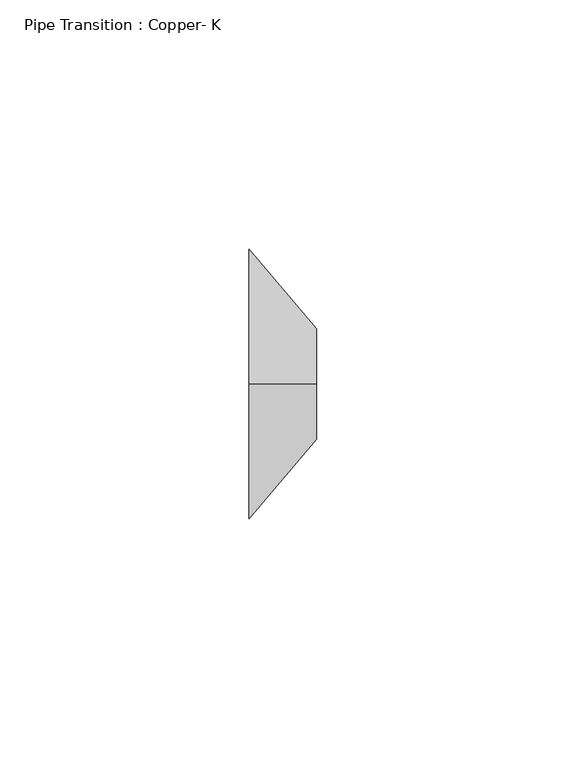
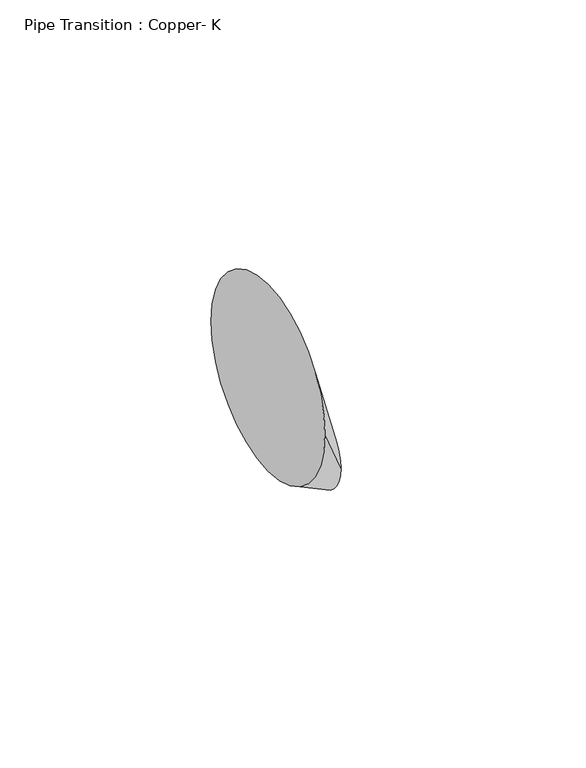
"""IFC4 building model written with IfcOpenShell, lengths in millimetres: pipe fitting geometry, Pipe Transition : Copper- K."""

import ifcopenshell
import ifcopenshell.guid

model = None  # the IFC model being written
_history = None  # IfcOwnerHistory: only IFC2X3 demands one
_inside = {}  # id of a spatial element -> (the spatial element, [elements in it])
_under = {}  # id of a project, library or spatial element -> (it, [spatial elements below it])
_declared = {}  # id of a project -> (the project, [libraries it declares])
_typed = {}  # id of a type object -> (the type object, [elements of that type])
_made_of = {}  # id of a material, layer set ... -> (it, [elements and type objects made of it])


def new_model(schema):
    """Start an empty IFC model of exactly this schema.

    Asked for "IFC4X3", IfcOpenShell would pick the latest addendum, in which some entities
    have other attributes; the version numbers below select the first issue.
    IFC2X3 requires an IfcOwnerHistory on every rooted entity: one is made here for all.
    """
    global model, _history
    if schema == "IFC4X3":
        model = ifcopenshell.file(schema_version=(4, 3, 0, 0))
    else:
        model = ifcopenshell.file(schema=schema)
    _inside.clear()
    _under.clear()
    _declared.clear()
    _typed.clear()
    _made_of.clear()
    _history = None
    if model.schema == "IFC2X3":
        org = make("IfcOrganization", Name="unknown")
        user = make(
            "IfcPersonAndOrganization",
            ThePerson=make("IfcPerson", FamilyName="unknown"),
            TheOrganization=org,
        )
        app = make(
            "IfcApplication",
            ApplicationDeveloper=org,
            Version="unknown",
            ApplicationFullName="unknown",
            ApplicationIdentifier="unknown",
        )
        _history = make(
            "IfcOwnerHistory",
            OwningUser=user,
            OwningApplication=app,
            ChangeAction="ADDED",
            CreationDate=0,
        )
    return model


def make(cls, **values):
    """One entity of the class cls with the attributes given. An attribute that is None is left unset."""
    return model.create_entity(
        cls, **{name: value for name, value in values.items() if value is not None}
    )


def rooted(cls, **values):
    """An entity with a GlobalId (a new one), such as an element, a storey or a relation."""
    return make(cls, GlobalId=ifcopenshell.guid.new(), OwnerHistory=_history, **values)


def si_unit(unit_type, name, prefix=None):
    """IfcSIUnit, for example si_unit("LENGTHUNIT", "METRE", prefix="MILLI")."""
    return make("IfcSIUnit", UnitType=unit_type, Prefix=prefix, Name=name)


def assignment(units):
    """IfcUnitAssignment: the units of a project."""
    return None if units is None else make("IfcUnitAssignment", Units=units)


def point(xyz):
    """IfcCartesianPoint."""
    return None if xyz is None else make("IfcCartesianPoint", Coordinates=xyz)


def direction(xyz):
    """IfcDirection."""
    return None if xyz is None else make("IfcDirection", DirectionRatios=xyz)


def frame(location, z_axis=None, x_axis=None):
    """IfcAxis2Placement3D, a coordinate frame: its origin and axes. An axis left out is left unset."""
    return make(
        "IfcAxis2Placement3D",
        Location=point(location),
        Axis=direction(z_axis),
        RefDirection=direction(x_axis),
    )


def origin():
    """The frame at (0, 0, 0) with its axes left unset."""
    return frame((0.0, 0.0, 0.0))


def place(relative_to, where):
    """IfcLocalPlacement: puts the frame where relative to a parent placement (None: the world)."""
    return make(
        "IfcLocalPlacement", PlacementRelTo=relative_to, RelativePlacement=where
    )


def context(
    kind, dimensions, precision=None, world=None, true_north=None, identifier=None
):
    """IfcGeometricRepresentationContext, for example the 3D "Model" context."""
    return make(
        "IfcGeometricRepresentationContext",
        ContextIdentifier=identifier,
        ContextType=kind,
        CoordinateSpaceDimension=dimensions,
        Precision=precision,
        WorldCoordinateSystem=world,
        TrueNorth=true_north,
    )


def project(units=None, contexts=None):
    """IfcProject with its units and contexts."""
    return rooted(
        "IfcProject",
        Name="project",
        RepresentationContexts=contexts,
        UnitsInContext=assignment(units),
    )


def spatial(cls, under=None, at=None, **own):
    """A site, building, storey or space (cls), placed at a placement, below another one or the project."""
    s = rooted(cls, ObjectPlacement=at, **own)
    if under is not None:
        _under.setdefault(under.id(), (under, []))[1].append(s)
    return s


def circle_curve(where, radius):
    """IfcCircle in the frame where."""
    return make("IfcCircle", Position=where, Radius=radius)


def shape(context_of_items, identifier, shape_type, items):
    """IfcShapeRepresentation: the items that make up one representation, for example the "Body"."""
    return make(
        "IfcShapeRepresentation",
        ContextOfItems=context_of_items,
        RepresentationIdentifier=identifier,
        RepresentationType=shape_type,
        Items=items,
    )


def source(mapping_origin, context_of_items, identifier, shape_type, items):
    """IfcRepresentationMap: a shape defined once, which mapped items show again and again."""
    return make(
        "IfcRepresentationMap",
        MappingOrigin=mapping_origin,
        MappedRepresentation=shape(context_of_items, identifier, shape_type, items),
    )


def transform(
    local_origin,
    x_axis=None,
    y_axis=None,
    z_axis=None,
    scale=None,
    scale2=None,
    scale3=None,
    uniform=True,
):
    """IfcCartesianTransformationOperator3D, or its non-uniform kind. x_axis, y_axis, z_axis: its Axis1, 2, 3."""
    if uniform:
        return make(
            "IfcCartesianTransformationOperator3D",
            Axis1=direction(x_axis),
            Axis2=direction(y_axis),
            LocalOrigin=point(local_origin),
            Scale=scale,
            Axis3=direction(z_axis),
        )
    return make(
        "IfcCartesianTransformationOperator3DnonUniform",
        Axis1=direction(x_axis),
        Axis2=direction(y_axis),
        LocalOrigin=point(local_origin),
        Scale=scale,
        Axis3=direction(z_axis),
        Scale2=scale2,
        Scale3=scale3,
    )


def mapped(mapping_source, mapping_target):
    """IfcMappedItem: shows the shape of a source again, moved by a transform."""
    return make(
        "IfcMappedItem", MappingSource=mapping_source, MappingTarget=mapping_target
    )


def made_of(thing, what):
    """Note that an element or type object is made of a material, layer set ...; save() writes the relation."""
    if what is not None:
        _made_of.setdefault(what.id(), (what, []))[1].append(thing)
    return thing


def element(
    cls,
    number,
    at=None,
    inside=None,
    cuts=None,
    type_object=None,
    material=None,
    context=None,
    identifier="Body",
    shape_type=None,
    held_by="IfcProductDefinitionShape",
    body=None,
    shapes=None,
    **own,
):
    """One element of the class cls, such as IfcWall. Its Tag is "e" and its number.

    at: its placement. inside: the storey or other place that contains it. cuts: it is an
    opening in that element (IfcRelVoidsElement). A single representation is given by context,
    identifier, shape_type and body (its items); several are given by shapes. held_by: the class
    of the entity that holds the representations. save() writes the other relations.
    """
    e = rooted(cls, Tag="e%d" % number, ObjectPlacement=at, **own)
    if body is not None:
        shapes = [shape(context, identifier, shape_type, body)]
    if shapes is not None:
        e.Representation = make(held_by, Representations=shapes)
    if inside is not None:
        _inside.setdefault(inside.id(), (inside, []))[1].append(e)
    if cuts is not None:
        rooted(
            "IfcRelVoidsElement", RelatingBuildingElement=cuts, RelatedOpeningElement=e
        )
    if type_object is not None:
        _typed.setdefault(type_object.id(), (type_object, []))[1].append(e)
    return made_of(e, material)


def aggregate(whole, parts):
    """IfcRelAggregates: a whole, such as a stair, and the parts it consists of."""
    return rooted("IfcRelAggregates", RelatingObject=whole, RelatedObjects=parts)


def save(model, path):
    """Write the relations noted so far, then the file.

    IfcRelAggregates (storeys below a building ...), IfcRelContainedInSpatialStructure (elements
    in a storey), IfcRelDefinesByType, IfcRelAssociatesMaterial and IfcRelDeclares: one each for
    every whole, place, type object, material and project.
    """
    for whole, parts in _under.values():
        aggregate(whole, parts)
    for where, things in _inside.values():
        rooted(
            "IfcRelContainedInSpatialStructure",
            RelatedElements=things,
            RelatingStructure=where,
        )
    for kind, things in _typed.values():
        rooted("IfcRelDefinesByType", RelatedObjects=things, RelatingType=kind)
    for what, things in _made_of.values():
        rooted("IfcRelAssociatesMaterial", RelatedObjects=things, RelatingMaterial=what)
    for by, libraries in _declared.values():
        rooted("IfcRelDeclares", RelatingContext=by, RelatedDefinitions=libraries)
    model.write(path)


def plane_surface(at):
    """IfcPlane: the flat surface through the origin of the frame at, square to its z axis."""
    return make("IfcPlane", Position=at)


def spline_surface(u_degree, v_degree, points, u_multiplicities, v_multiplicities, u_knots, v_knots, weights=None):
    """IfcBSplineSurfaceWithKnots; with weights, IfcRationalBSplineSurfaceWithKnots. points: one row for each step in u."""
    own = dict(
        UDegree=u_degree,
        VDegree=v_degree,
        ControlPointsList=[[point(p) for p in row] for row in points],
        SurfaceForm="UNSPECIFIED",
        UClosed=False,
        VClosed=False,
        SelfIntersect=False,
        UMultiplicities=u_multiplicities,
        VMultiplicities=v_multiplicities,
        UKnots=u_knots,
        VKnots=v_knots,
        KnotSpec="UNSPECIFIED",
    )
    if weights is None:
        return make("IfcBSplineSurfaceWithKnots", **own)
    return make("IfcRationalBSplineSurfaceWithKnots", WeightsData=weights, **own)


def advanced_brep(points, edges, surfaces, faces):
    """IfcAdvancedBrep: a solid bounded by faces that lie on surfaces and meet in shared edges.

    An edge is (start, end): straight between two places in points (the first is 0);
    or (start, end, curve); or (start, end, curve, False) where it runs against its curve.
    A face is (place in surfaces, loops), or (place, loops, False) where it looks against
    its surface's normal. A loop lists edges by number (the first is 1), with a minus sign
    where the edge is run from its end to its start. The first loop is the outer one.
    """
    corners = [point(p) for p in points]
    vertices = [make("IfcVertexPoint", VertexGeometry=c) for c in corners]
    made = []
    for start, end, *more in edges:
        made.append(
            make(
                "IfcEdgeCurve",
                EdgeStart=vertices[start],
                EdgeEnd=vertices[end],
                EdgeGeometry=more[0] if more else make("IfcPolyline", Points=[corners[start], corners[end]]),
                SameSense=more[1] if len(more) > 1 else True,
            )
        )
    hull = []
    for where, loops, *sense in faces:
        bounds = []
        for j, loop in enumerate(loops):
            ring = [make("IfcOrientedEdge", EdgeElement=made[abs(k) - 1], Orientation=k > 0) for k in loop]
            bounds.append(
                make(
                    "IfcFaceOuterBound" if j == 0 else "IfcFaceBound",
                    Bound=make("IfcEdgeLoop", EdgeList=ring),
                    Orientation=True,
                )
            )
        hull.append(make("IfcAdvancedFace", Bounds=bounds, FaceSurface=surfaces[where], SameSense=sense[0] if sense else True))
    return make("IfcAdvancedBrep", Outer=make("IfcClosedShell", CfsFaces=hull))


def pipe_transition_copper_k_6dd60ac0(model_context):
    return source(origin(), model_context, "Body", "AdvancedBrep", [
        advanced_brep(
        [(13.49375, 0.0, -13.0627579), (13.49375, -11.1125, -24.1752579), (13.49375, 0.0, -35.2877579), (13.49375, 11.1125, -24.1752579), (0.0, 0.0, 26.9875), (0.0, 26.9875, 0.0), (0.0, 0.0, -26.9875), (0.0, -26.9875, 0.0)],
        [
            (0, 1, circle_curve(frame((13.49375, 0.0, -24.1752579), z_axis=(1.0, 0.0, 0.0), x_axis=(0.0, 1.0, 0.0)), 11.1125)),
            (1, 2, circle_curve(frame((13.49375, 0.0, -24.1752579), z_axis=(1.0, 0.0, 0.0), x_axis=(0.0, 1.0, 0.0)), 11.1125)),
            (2, 3, circle_curve(frame((13.49375, 0.0, -24.1752579), z_axis=(1.0, 0.0, 0.0), x_axis=(0.0, 1.0, 0.0)), 11.1125)),
            (3, 0, circle_curve(frame((13.49375, 0.0, -24.1752579), z_axis=(1.0, 0.0, 0.0), x_axis=(0.0, 1.0, 0.0)), 11.1125)),
            (4, 5, circle_curve(frame((0.0, 0.0, 0.0), z_axis=(-1.0, 0.0, 0.0), x_axis=(0.0, 1.0, 0.0)), 26.9875)),
            (5, 6, circle_curve(frame((0.0, 0.0, 0.0), z_axis=(-1.0, 0.0, 0.0), x_axis=(0.0, 1.0, 0.0)), 26.9875)),
            (6, 7, circle_curve(frame((0.0, 0.0, 0.0), z_axis=(-1.0, 0.0, 0.0), x_axis=(0.0, 1.0, 0.0)), 26.9875)),
            (7, 4, circle_curve(frame((0.0, 0.0, 0.0), z_axis=(-1.0, 0.0, 0.0), x_axis=(0.0, 1.0, 0.0)), 26.9875)),
            (7, 1),
            (0, 4),
            (6, 2),
            (5, 3),
        ],
        [
            plane_surface(frame((13.49375, 0.0, -24.1752579), z_axis=(1.0, 0.0, 0.0), x_axis=(0.0, -1.0, 0.0))),
            plane_surface(frame((0.0, 0.0, 0.0), z_axis=(-1.0, 0.0, 0.0), x_axis=(0.0, -1.0, 0.0))),
            spline_surface(2, 1, [[(0.0, 0.0, 26.9875), (13.49375, 0.0, -13.0627579)], [(0.0, -26.9875, 26.9875), (13.49375, -11.112499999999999, -13.0627579)], [(0.0, -26.9875, 0.0), (13.49375, -11.1125, -24.1752579)]], [3, 3], [2, 2], [0.0, 1.0], [0.0, 1.0], weights=[[1.0, 1.0], [0.7071067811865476, 0.7071067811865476], [1.0, 1.0]]),
            spline_surface(2, 1, [[(0.0, -26.9875, 0.0), (13.49375, -11.1125, -24.1752579)], [(0.0, -26.9875, -26.9875), (13.49375, -11.1125, -35.2877579)], [(0.0, 0.0, -26.9875), (13.49375, 0.0, -35.2877579)]], [3, 3], [2, 2], [0.0, 1.0], [0.0, 1.0], weights=[[1.0, 1.0], [0.7071067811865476, 0.7071067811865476], [1.0, 1.0]]),
            spline_surface(2, 1, [[(0.0, 0.0, -26.9875), (13.49375, 0.0, -35.2877579)], [(0.0, 26.9875, -26.9875), (13.49375, 11.112500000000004, -35.2877579)], [(0.0, 26.9875, 0.0), (13.49375, 11.1125, -24.1752579)]], [3, 3], [2, 2], [0.0, 1.0], [0.0, 1.0], weights=[[1.0, 1.0], [0.7071067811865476, 0.7071067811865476], [1.0, 1.0]]),
            spline_surface(2, 1, [[(0.0, 26.9875, 0.0), (13.49375, 11.1125, -24.1752579)], [(0.0, 26.9875, 26.9875), (13.49375, 11.1125, -13.062757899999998)], [(0.0, 0.0, 26.9875), (13.49375, 0.0, -13.0627579)]], [3, 3], [2, 2], [0.0, 1.0], [0.0, 1.0], weights=[[1.0, 1.0], [0.7071067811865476, 0.7071067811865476], [1.0, 1.0]]),
        ],
        [
            (0, [[1, 2, 3, 4]]),
            (1, [[5, 6, 7, 8]]),
            (2, [[-8, 9, -1, 10]]),
            (3, [[-7, 11, -2, -9]]),
            (4, [[-6, 12, -3, -11]]),
            (5, [[-5, -10, -4, -12]]),
        ],
    ),
        advanced_brep(
        [(13.49375, 0.0, -13.0627579), (13.49375, -11.1125, -24.1752579), (13.49375, 0.0, -35.2877579), (13.49375, 11.1125, -24.1752579), (0.0, 0.0, 26.9875), (0.0, 26.9875, 0.0), (0.0, 0.0, -26.9875), (0.0, -26.9875, 0.0)],
        [
            (0, 1, circle_curve(frame((13.49375, 0.0, -24.1752579), z_axis=(1.0, 0.0, 0.0), x_axis=(0.0, 1.0, 0.0)), 11.1125)),
            (1, 2, circle_curve(frame((13.49375, 0.0, -24.1752579), z_axis=(1.0, 0.0, 0.0), x_axis=(0.0, 1.0, 0.0)), 11.1125)),
            (2, 3, circle_curve(frame((13.49375, 0.0, -24.1752579), z_axis=(1.0, 0.0, 0.0), x_axis=(0.0, 1.0, 0.0)), 11.1125)),
            (3, 0, circle_curve(frame((13.49375, 0.0, -24.1752579), z_axis=(1.0, 0.0, 0.0), x_axis=(0.0, 1.0, 0.0)), 11.1125)),
            (4, 5, circle_curve(frame((0.0, 0.0, 0.0), z_axis=(-1.0, 0.0, 0.0), x_axis=(0.0, 1.0, 0.0)), 26.9875)),
            (5, 6, circle_curve(frame((0.0, 0.0, 0.0), z_axis=(-1.0, 0.0, 0.0), x_axis=(0.0, 1.0, 0.0)), 26.9875)),
            (6, 7, circle_curve(frame((0.0, 0.0, 0.0), z_axis=(-1.0, 0.0, 0.0), x_axis=(0.0, 1.0, 0.0)), 26.9875)),
            (7, 4, circle_curve(frame((0.0, 0.0, 0.0), z_axis=(-1.0, 0.0, 0.0), x_axis=(0.0, 1.0, 0.0)), 26.9875)),
            (7, 1),
            (0, 4),
            (6, 2),
            (5, 3),
        ],
        [
            plane_surface(frame((13.49375, 0.0, -24.1752579), z_axis=(1.0, 0.0, 0.0), x_axis=(0.0, -1.0, 0.0))),
            plane_surface(frame((0.0, 0.0, 0.0), z_axis=(-1.0, 0.0, 0.0), x_axis=(0.0, -1.0, 0.0))),
            spline_surface(2, 1, [[(0.0, 0.0, 26.9875), (13.49375, 0.0, -13.0627579)], [(0.0, -26.9875, 26.9875), (13.49375, -11.112499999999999, -13.0627579)], [(0.0, -26.9875, 0.0), (13.49375, -11.1125, -24.1752579)]], [3, 3], [2, 2], [0.0, 1.0], [0.0, 1.0], weights=[[1.0, 1.0], [0.7071067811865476, 0.7071067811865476], [1.0, 1.0]]),
            spline_surface(2, 1, [[(0.0, -26.9875, 0.0), (13.49375, -11.1125, -24.1752579)], [(0.0, -26.9875, -26.9875), (13.49375, -11.1125, -35.2877579)], [(0.0, 0.0, -26.9875), (13.49375, 0.0, -35.2877579)]], [3, 3], [2, 2], [0.0, 1.0], [0.0, 1.0], weights=[[1.0, 1.0], [0.7071067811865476, 0.7071067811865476], [1.0, 1.0]]),
            spline_surface(2, 1, [[(0.0, 0.0, -26.9875), (13.49375, 0.0, -35.2877579)], [(0.0, 26.9875, -26.9875), (13.49375, 11.112500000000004, -35.2877579)], [(0.0, 26.9875, 0.0), (13.49375, 11.1125, -24.1752579)]], [3, 3], [2, 2], [0.0, 1.0], [0.0, 1.0], weights=[[1.0, 1.0], [0.7071067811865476, 0.7071067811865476], [1.0, 1.0]]),
            spline_surface(2, 1, [[(0.0, 26.9875, 0.0), (13.49375, 11.1125, -24.1752579)], [(0.0, 26.9875, 26.9875), (13.49375, 11.1125, -13.062757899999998)], [(0.0, 0.0, 26.9875), (13.49375, 0.0, -13.0627579)]], [3, 3], [2, 2], [0.0, 1.0], [0.0, 1.0], weights=[[1.0, 1.0], [0.7071067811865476, 0.7071067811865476], [1.0, 1.0]]),
        ],
        [
            (0, [[1, 2, 3, 4]]),
            (1, [[5, 6, 7, 8]]),
            (2, [[-8, 9, -1, 10]]),
            (3, [[-7, 11, -2, -9]]),
            (4, [[-6, 12, -3, -11]]),
            (5, [[-5, -10, -4, -12]]),
        ],
    ),
    ])


if __name__ == "__main__":
    model = new_model("IFC4")
    model_context = context("Model", 3, world=origin())
    ifc_project = project(units=[si_unit("LENGTHUNIT", "METRE", prefix="MILLI")], contexts=[model_context])
    site = spatial("IfcSite", under=ifc_project)
    building = spatial("IfcBuilding", under=site)
    placement = place(None, origin())
    pipe_transition_copper_k_shape = pipe_transition_copper_k_6dd60ac0(model_context)
    element("IfcPipeFitting", 1, ObjectType="Pipe Transition : Copper- K", at=placement, inside=building, context=model_context, shape_type="MappedRepresentation", body=[
        mapped(pipe_transition_copper_k_shape, transform((0.0, 0.0, 0.0), x_axis=(1.0, 0.0, 0.0), y_axis=(0.0, 1.0, 0.0), z_axis=(0.0, 0.0, 1.0))),
    ])
    save(model, "model.ifc")
